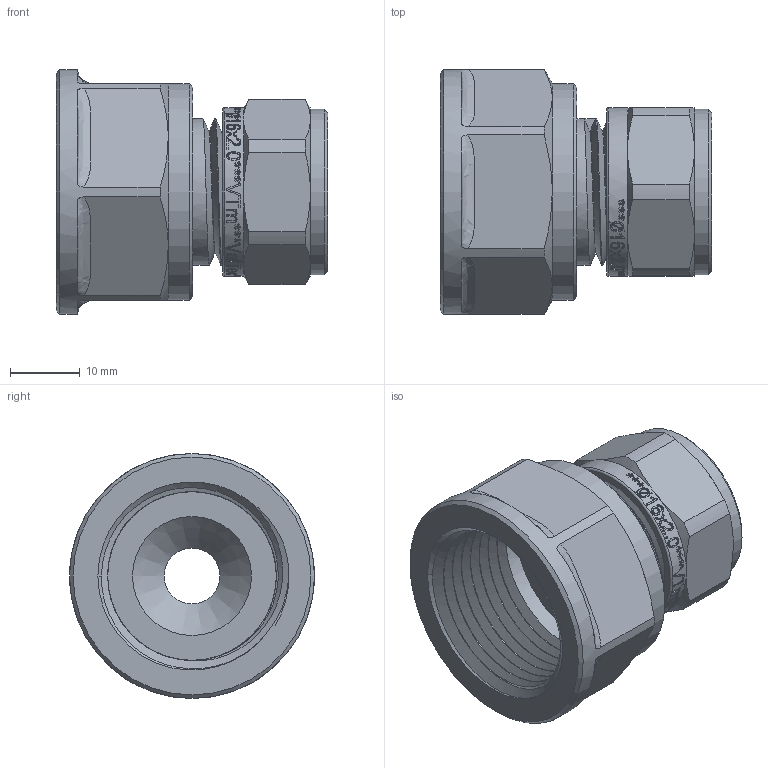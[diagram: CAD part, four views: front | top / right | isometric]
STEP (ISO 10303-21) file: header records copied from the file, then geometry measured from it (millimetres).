
FILE_DESCRIPTION(/* description */ (''),/* implementation_level */ '2;1');
FILE_NAME(/* name */ 'E:\Артём\00000\Работа удаленка\Обжимные фитинги\VTm.302.N.001605.stp',/* time_stamp */ '2020-06-08T15:07:55+03:00',/* author */ ('BeN_GaN'),/* organization */ (''),/* preprocessor_version */ 'ST-DEVELOPER v18',/* originating_system */ 'Autodesk Inventor 2020',/* authorisation */ '');
FILE_SCHEMA (('AUTOMOTIVE_DESIGN { 1 0 10303 214 3 1 1 }'));
Length unit declared in the file: millimetre
Products named in the file (1): VTm.302.N.001605
Bounding box: 38.77 x 35 x 35 mm (x, y, z)
Volume: 12801.6 mm3; surface area: 10921.3 mm2
Topology: 1 solids, 2 shells, 680 faces, 1905 edges, 1281 vertices
Faces by surface type: bspline 346, plane 189, cylinder 89, cone 31, torus 25
Full cylindrical faces by diameter (mm): 8 x1, 9.4 x2, 11.75 x4, 16.124 x4, 16.2 x1, 16.724 x5, 17.124 x1, 17.4 x1, 18.724 x1, 21 x2, 23.624 x1, 24.1 x7, 24.124 x1, 27.7 x7, 31 x1, 35 x1
Entity records: 30464 total; most frequent: CARTESIAN_POINT 15128, ORIENTED_EDGE 3802, DIRECTION 2142, EDGE_CURVE 1901, VERTEX_POINT 1281, LINE 774, VECTOR 774, B_SPLINE_CURVE_WITH_KNOTS 742
